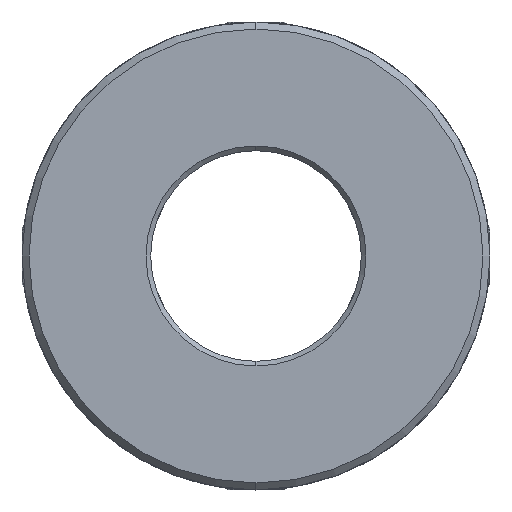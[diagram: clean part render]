
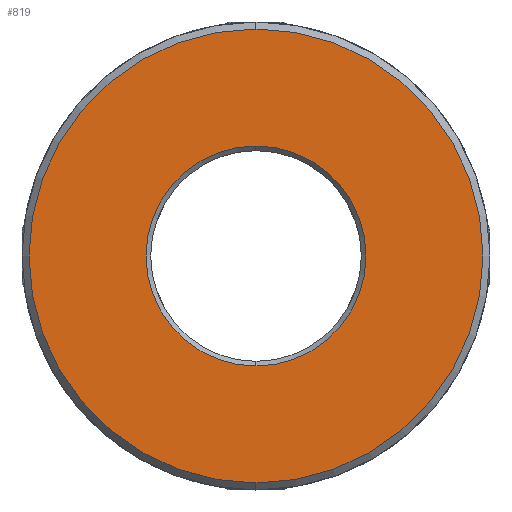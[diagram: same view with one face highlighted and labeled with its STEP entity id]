
A CAD part, front view. The second image highlights one B-rep face of the part: STEP entity #819.
In plain terms, the highlighted planar face has unit normal (0, -1, 0).
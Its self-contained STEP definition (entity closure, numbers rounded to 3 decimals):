
#115 = CARTESIAN_POINT ( 'NONE',  ( 0., 0., 19.4 ) ) ;
#312 = EDGE_LOOP ( 'NONE', ( #5080, #5786 ) ) ;
#327 = ORIENTED_EDGE ( 'NONE', *, *, #1569, .T. ) ;
#504 = AXIS2_PLACEMENT_3D ( 'NONE', #2421, #7242, #6678 ) ;
#553 = DIRECTION ( 'NONE',  ( 0., -1., 0. ) ) ;
#556 = DIRECTION ( 'NONE',  ( 0., 0., 1. ) ) ;
#710 = DIRECTION ( 'NONE',  ( 0., 0., 1. ) ) ;
#740 = ORIENTED_EDGE ( 'NONE', *, *, #6509, .T. ) ;
#819 = ADVANCED_FACE ( 'NONE', ( #2302, #5228 ), #2867, .F. ) ;
#967 = AXIS2_PLACEMENT_3D ( 'NONE', #2707, #7565, #3952 ) ;
#1247 = DIRECTION ( 'NONE',  ( 0., 0., 1. ) ) ;
#1569 = EDGE_CURVE ( 'NONE', #4056, #5446, #6456, .T. ) ;
#1938 = CARTESIAN_POINT ( 'NONE',  ( 0., 0., 9.4 ) ) ;
#2120 = EDGE_CURVE ( 'NONE', #4958, #2339, #7689, .T. ) ;
#2302 = FACE_BOUND ( 'NONE', #5731, .T. ) ;
#2339 = VERTEX_POINT ( 'NONE', #3953 ) ;
#2360 = CIRCLE ( 'NONE', #3198, 19.4 ) ;
#2421 = CARTESIAN_POINT ( 'NONE',  ( 0., 0., 0. ) ) ;
#2471 = DIRECTION ( 'NONE',  ( 0., 1., 0. ) ) ;
#2549 = EDGE_CURVE ( 'NONE', #2339, #4958, #2360, .T. ) ;
#2707 = CARTESIAN_POINT ( 'NONE',  ( 0., 0., 0. ) ) ;
#2867 = PLANE ( 'NONE',  #6072 ) ;
#3198 = AXIS2_PLACEMENT_3D ( 'NONE', #3522, #553, #710 ) ;
#3522 = CARTESIAN_POINT ( 'NONE',  ( 0., 0., 0. ) ) ;
#3952 = DIRECTION ( 'NONE',  ( 0., 0., 1. ) ) ;
#3953 = CARTESIAN_POINT ( 'NONE',  ( 0., 0., -19.4 ) ) ;
#4056 = VERTEX_POINT ( 'NONE', #5570 ) ;
#4081 = DIRECTION ( 'NONE',  ( 0., 1., 0. ) ) ;
#4195 = AXIS2_PLACEMENT_3D ( 'NONE', #5529, #2471, #1247 ) ;
#4958 = VERTEX_POINT ( 'NONE', #115 ) ;
#5080 = ORIENTED_EDGE ( 'NONE', *, *, #2120, .T. ) ;
#5115 = CIRCLE ( 'NONE', #967, 9.4 ) ;
#5228 = FACE_OUTER_BOUND ( 'NONE', #312, .T. ) ;
#5446 = VERTEX_POINT ( 'NONE', #1938 ) ;
#5529 = CARTESIAN_POINT ( 'NONE',  ( 0., 0., 0. ) ) ;
#5570 = CARTESIAN_POINT ( 'NONE',  ( 0., 0., -9.4 ) ) ;
#5731 = EDGE_LOOP ( 'NONE', ( #327, #740 ) ) ;
#5786 = ORIENTED_EDGE ( 'NONE', *, *, #2549, .T. ) ;
#6072 = AXIS2_PLACEMENT_3D ( 'NONE', #7718, #4081, #556 ) ;
#6456 = CIRCLE ( 'NONE', #4195, 9.4 ) ;
#6509 = EDGE_CURVE ( 'NONE', #5446, #4056, #5115, .T. ) ;
#6678 = DIRECTION ( 'NONE',  ( 0., 0., 1. ) ) ;
#7242 = DIRECTION ( 'NONE',  ( 0., -1., 0. ) ) ;
#7565 = DIRECTION ( 'NONE',  ( 0., 1., 0. ) ) ;
#7689 = CIRCLE ( 'NONE', #504, 19.4 ) ;
#7718 = CARTESIAN_POINT ( 'NONE',  ( 24.74, 0., -50. ) ) ;
